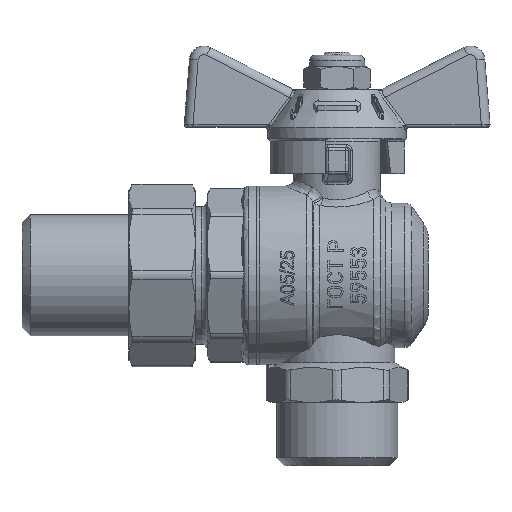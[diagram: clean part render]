
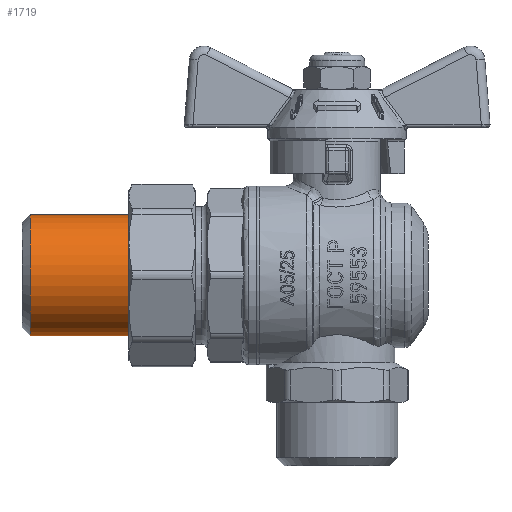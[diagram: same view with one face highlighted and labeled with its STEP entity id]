
A CAD part, left-side view. The second image highlights one B-rep face of the part: STEP entity #1719.
In plain terms, the highlighted cylindrical face has radius 10.477 mm (diameter 20.955 mm), a full revolution.
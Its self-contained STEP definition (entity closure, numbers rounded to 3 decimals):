
#1719=ADVANCED_FACE('',(#15737,#15739),#15741,.T.);
#15737=FACE_OUTER_BOUND('',#15738,.T.);
#15738=EDGE_LOOP('',(#27462));
#15739=FACE_OUTER_BOUND('',#15740,.T.);
#15740=EDGE_LOOP('',(#27463));
#15741=CYLINDRICAL_SURFACE('',#15742,10.478);
#15742=AXIS2_PLACEMENT_3D('',#15743,#15744,#15745);
#15743=CARTESIAN_POINT('',(0.,27.343,0.));
#15744=DIRECTION('',(0.,1.,0.));
#15745=DIRECTION('',(-1.,0.,0.));
#27462=ORIENTED_EDGE('',*,*,#33514,.F.);
#27463=ORIENTED_EDGE('',*,*,#33525,.F.);
#33514=EDGE_CURVE('',#42089,#42089,#42090,.T.);
#33525=EDGE_CURVE('',#42105,#42105,#42106,.F.);
#42089=VERTEX_POINT('',#72241);
#42090=CIRCLE('',#72242,10.478);
#42105=VERTEX_POINT('',#72281);
#42106=CIRCLE('',#72282,10.478);
#72241=CARTESIAN_POINT('',(-10.478,53.143,0.));
#72242=AXIS2_PLACEMENT_3D('',#72243,#72244,#72245);
#72243=CARTESIAN_POINT('',(0.,53.143,0.));
#72244=DIRECTION('',(0.,1.,0.));
#72245=DIRECTION('',(-1.,0.,0.));
#72281=CARTESIAN_POINT('',(-10.478,34.043,0.));
#72282=AXIS2_PLACEMENT_3D('',#72283,#72284,#72285);
#72283=CARTESIAN_POINT('',(0.,34.043,0.));
#72284=DIRECTION('',(0.,1.,0.));
#72285=DIRECTION('',(-1.,0.,0.));
